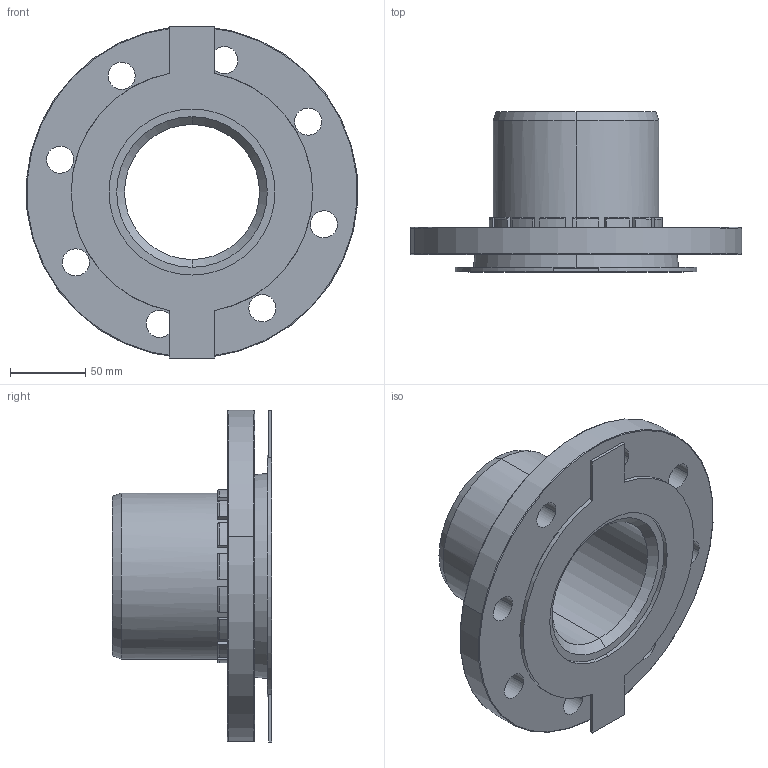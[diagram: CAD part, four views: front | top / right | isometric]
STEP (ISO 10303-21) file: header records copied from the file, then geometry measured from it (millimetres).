
FILE_DESCRIPTION (( 'STEP AP203' ), '1' );
FILE_NAME ('KP_567-110.step', '2011-08-08T11:59:07', ( '' ), ( '' ), 'SwSTEP 2.0', 'SolidWorks 2011', '' );
FILE_SCHEMA (( 'CONFIG_CONTROL_DESIGN' ));
Length unit declared in the file: millimetre
Products named in the file (1): KP_567-110
Bounding box: 219.52 x 106 x 220 mm (x, y, z)
Volume: 867121.6 mm3; surface area: 174977.3 mm2
Topology: 1 solids, 1 shells, 186 faces, 510 edges, 332 vertices
Faces by surface type: plane 80, cylinder 61, torus 25, cone 20
Entity records: 6104 total; most frequent: DIRECTION 1133, CARTESIAN_POINT 1029, ORIENTED_EDGE 1020, EDGE_CURVE 510, AXIS2_PLACEMENT_3D 436, VERTEX_POINT 332, LINE 261, VECTOR 261
